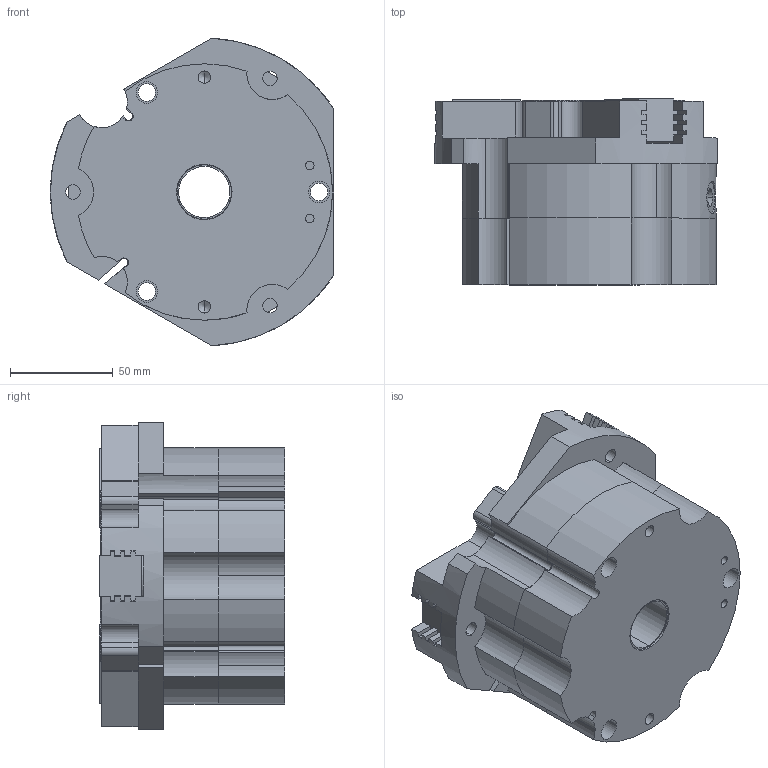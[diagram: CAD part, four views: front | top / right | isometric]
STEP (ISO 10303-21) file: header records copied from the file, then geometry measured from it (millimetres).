
FILE_DESCRIPTION (( 'STEP AP214' ), '1' );
FILE_NAME ('THB-125A-1-AS.STEP', '2021-01-18T02:48:28', ( '' ), ( '' ), 'SwSTEP 2.0', 'SolidWorks 2016', '' );
FILE_SCHEMA (( 'AUTOMOTIVE_DESIGN' ));
Length unit declared in the file: millimetre
Products named in the file (6): THB-125A-1-AS; THB-125A-1-AS-03; THB-125A-1-AS-02; THB-125A-1-AS-04; THB-125A-1-AS-01; THB-125A-1-AS-05
Assembly tree (7 placements, depth 2):
  THB-125A-1-AS
    THB-125A-1-AS-01
    THB-125A-1-AS-02  x3
    THB-125A-1-AS-03
    THB-125A-1-AS-04
    THB-125A-1-AS-05
Bounding box: 138 x 90.5 x 149.81 mm (x, y, z)
Volume: 935050.6 mm3; surface area: 166021.9 mm2
Topology: 7 solids, 8 shells, 507 faces, 1385 edges, 892 vertices
Faces by surface type: plane 256, cylinder 189, cone 62
Entity records: 13709 total; most frequent: CARTESIAN_POINT 2394, DIRECTION 2385, ORIENTED_EDGE 2186, EDGE_CURVE 1093, AXIS2_PLACEMENT_3D 883, VERTEX_POINT 720, LINE 619, VECTOR 619
